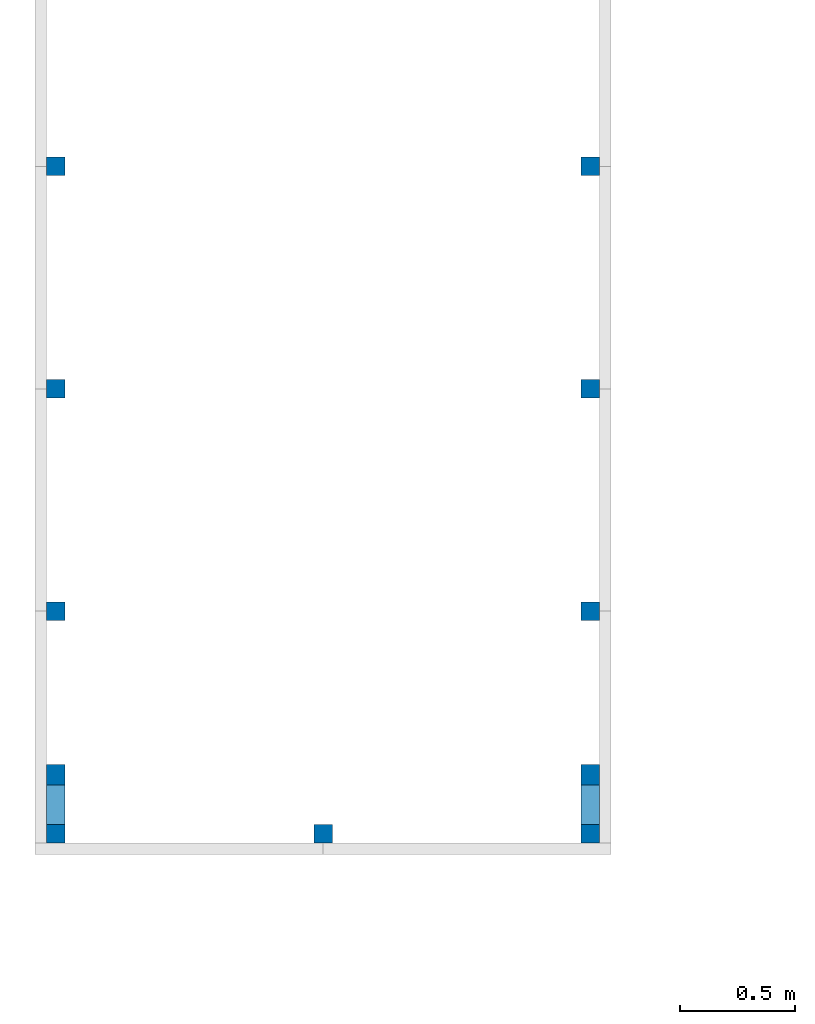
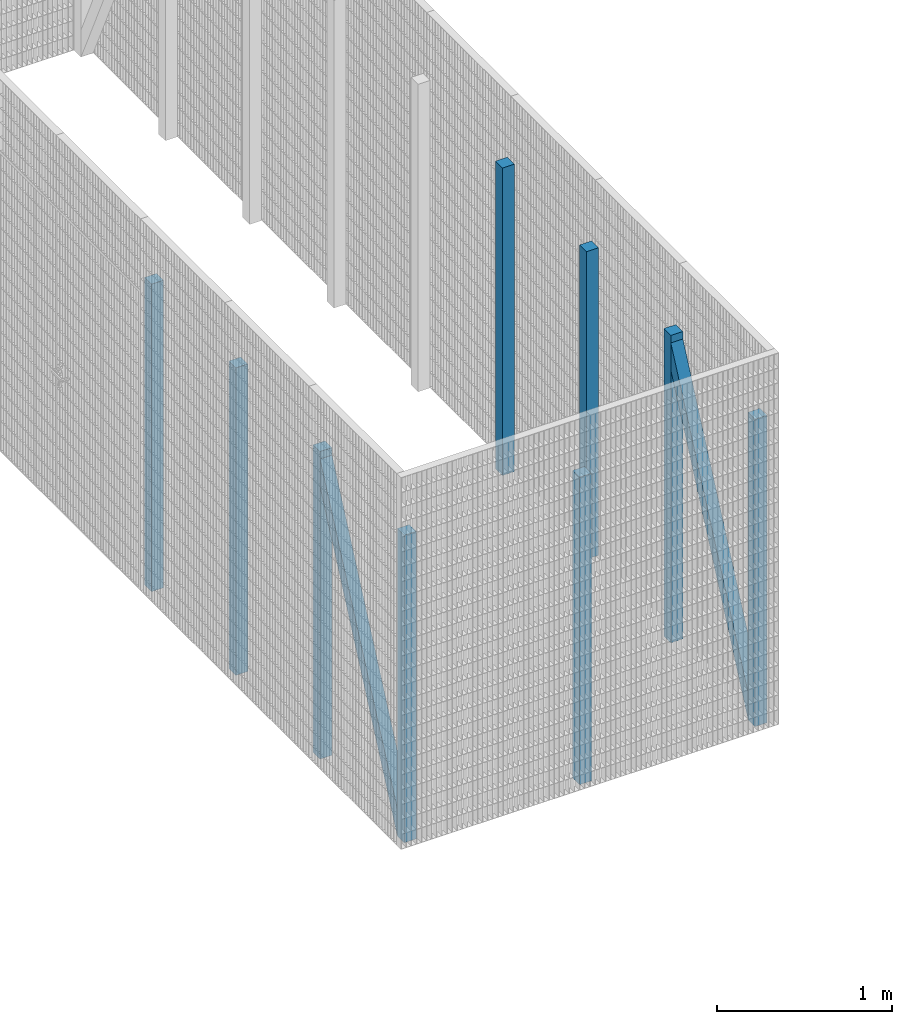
# One storey, part 1 of 65: 11 columns.
"""IFC2X3 building model written with IfcOpenShell, lengths in millimetres."""

from ifc_helpers import new_model, entity, si_unit, converted_unit, derived_unit, money_unit, direction, frame, origin_with_axes, origin_2d_with_axis, place, context, subcontext, project, spatial, rectangle, extrude, clip, halfspace, material, type_object, element, save


model = new_model("IFC2X3")

# Units and contexts
model_context = context("Model", 3, precision=0.01, world=origin_with_axes(), true_north=direction((0.0, 1.0)))
body_context = subcontext(model_context, "Body", "Model", "MODEL_VIEW")
ifc_project = project(units=[si_unit("LENGTHUNIT", "METRE", prefix="MILLI"), si_unit("AREAUNIT", "SQUARE_METRE"), si_unit("VOLUMEUNIT", "CUBIC_METRE"), converted_unit("PLANEANGLEUNIT", "DEGREE", entity("IfcPlaneAngleMeasure", 0.0174532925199), si_unit("PLANEANGLEUNIT", "RADIAN"), dimensions=[0, 0, 0, 0, 0, 0, 0]), si_unit("SOLIDANGLEUNIT", "STERADIAN"), money_unit("EUR"), converted_unit("TIMEUNIT", "Year", entity("IfcTimeMeasure", 31556926.0), si_unit("TIMEUNIT", "SECOND"), dimensions=[0, 0, 1, 0, 0, 0, 0]), si_unit("MASSUNIT", "GRAM", prefix="KILO"), si_unit("THERMODYNAMICTEMPERATUREUNIT", "DEGREE_CELSIUS"), si_unit("LUMINOUSINTENSITYUNIT", "LUMEN"), si_unit("ENERGYUNIT", "JOULE", prefix="MEGA"), derived_unit("THERMALCONDUCTANCEUNIT", [(si_unit("POWERUNIT", "WATT"), 1), (si_unit("LENGTHUNIT", "METRE"), -1), (si_unit("THERMODYNAMICTEMPERATUREUNIT", "KELVIN"), -1)]), derived_unit("SPECIFICHEATCAPACITYUNIT", [(si_unit("ENERGYUNIT", "JOULE"), 1), (si_unit("MASSUNIT", "GRAM", prefix="KILO"), -1), (si_unit("THERMODYNAMICTEMPERATUREUNIT", "KELVIN"), -1)]), derived_unit("MASSDENSITYUNIT", [(si_unit("MASSUNIT", "GRAM", prefix="KILO"), 1), (si_unit("VOLUMEUNIT", "CUBIC_METRE"), -1)])], contexts=[model_context])

# Site, building, storey
site_placement = place(None, origin_with_axes())
site = spatial("IfcSite", under=ifc_project, at=site_placement, Name="Puškini 31, Narva", CompositionType="ELEMENT")
building_placement = place(site_placement, origin_with_axes())
building = spatial("IfcBuilding", under=site, at=building_placement, Name="Narva Riigigümnaasium", CompositionType="ELEMENT")
storey_placement = place(building_placement, frame((0.0, 0.0, -1320.0), z_axis=(0.0, 0.0, 1.0), x_axis=(1.0, 0.0, 0.0)))
storey = spatial("IfcBuildingStorey", under=building, at=storey_placement, Name="1.korrus -1.32", CompositionType="ELEMENT", Elevation=-1320.0)

# Columns
ifc_material = material(Name="ET-06_Teras - Konstruktsioon")
column_type = type_object("IfcColumnType", Name="ET-06_Teras - Konstruktsioon 80 x 80", PredefinedType="COLUMN")
column_1_placement = place(storey_placement, frame((3241.44968427, 159665.842991, 736.127136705), z_axis=(0.0, 0.0, 1.0), x_axis=(1.0, 1.33639404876e-07, 0.0)))
element("IfcColumn", 1, at=column_1_placement, inside=storey, type_object=column_type, material=ifc_material, Name="Post", ObjectType="COLUMN", context=body_context, shape_type="Clipping", body=[
    clip(clip(extrude(rectangle(XDim=80.0, YDim=80.0, at=origin_2d_with_axis()), frame((0.0, -72.5682679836, -156.392667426), z_axis=(0.0, 0.420907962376, 0.907103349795), x_axis=(1.0, 0.0, 0.0)), (0.0, 0.0, 1.0), 2447.41477683), halfspace(frame((0.0, 0.0, 0.0), z_axis=(0.0, 1.0, 0.0), x_axis=(0.0, 0.0, 1.0)), True)), halfspace(frame((0.0, 884.999830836, 0.0), z_axis=(0.0, -1.0, 0.0), x_axis=(0.0, 0.0, -1.0)), True)),
])
column_2_placement = place(storey_placement, frame((5561.44968427, 159665.843301, 736.127136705), z_axis=(0.0, 0.0, 1.0), x_axis=(1.0, 1.3363940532e-07, 0.0)))
element("IfcColumn", 2, at=column_2_placement, inside=storey, type_object=column_type, material=ifc_material, Name="Post", ObjectType="COLUMN", context=body_context, shape_type="Clipping", body=[
    clip(clip(extrude(rectangle(XDim=80.0, YDim=80.0, at=origin_2d_with_axis()), frame((0.0, -72.5682679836, -156.392667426), z_axis=(0.0, -0.420907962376, -0.907103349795), x_axis=(-1.0, 0.0, 0.0)), (0.0, 0.0, -1.0), 2447.41477683), halfspace(frame((0.0, 0.0, 0.0), z_axis=(0.0, 1.0, 0.0), x_axis=(0.0, 0.0, 1.0)), True)), halfspace(frame((0.0, 884.999830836, 0.0), z_axis=(0.0, -1.0, 0.0), x_axis=(0.0, 0.0, -1.0)), True)),
])
for number, where, z_axis, x_axis, name in (
    (3, (5561.44899437, 162520.843073, 640.0), (0.0, 0.0, 1.0), (1.0, 0.0, 0.0), "Post"),
    (4, (5561.44899463, 161555.843072, 640.0), (0.0, 0.0, 1.0), (1.0, 0.0, 0.0), "Post"),
    (5, (5561.44899455, 160590.843072, 640.0), (0.0, 0.0, 1.0), (1.0, 0.0, 0.0), "Post"),
    (6, (5561.44903946, 159625.843174, 640.0), (0.0, 0.0, 1.0), (1.0, 0.0, 0.0), "Post"),
    (7, (4401.44903946, 159625.843053, 640.0), (0.0, 0.0, 1.0), (1.0, 0.0, 0.0), "Post"),
    (8, (3241.44913057, 162520.842912, 640.0), (0.0, 0.0, 1.0), (1.0, 0.0, 0.0), "Post"),
    (9, (3241.44903946, 161555.842912, 640.0), (0.0, 0.0, 1.0), (1.0, 0.0, 0.0), "Post"),
    (10, (3241.44903946, 160590.842912, 640.0), (0.0, 0.0, 1.0), (1.0, 0.0, 0.0), "Post"),
    (11, (3241.44913057, 159625.842996, 640.0), (0.0, 0.0, 1.0), (1.0, 0.0, 0.0), "Post"),
):
    element("IfcColumn", number, at=place(storey_placement, frame(where, z_axis=z_axis, x_axis=x_axis)), inside=storey, type_object=column_type, material=ifc_material, Name=name, ObjectType="COLUMN", context=body_context, shape_type="SweptSolid", body=[
        extrude(rectangle(XDim=80.0, YDim=80.0, at=origin_2d_with_axis()), origin_with_axes(), (0.0, 0.0, 1.0), 2150.0),
    ])

save(model, "model.ifc")
